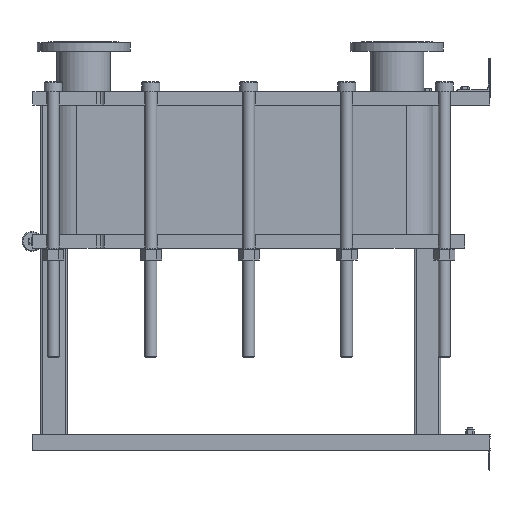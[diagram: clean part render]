
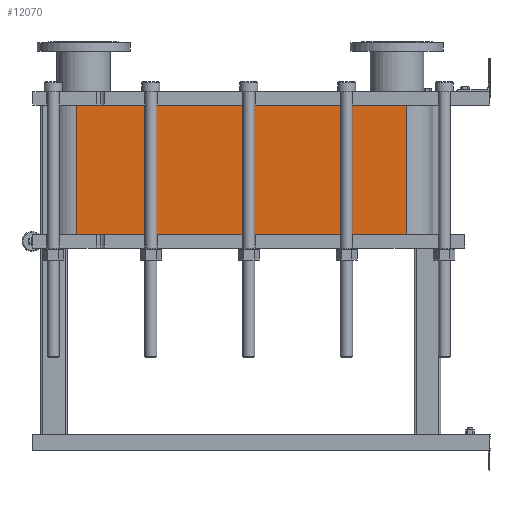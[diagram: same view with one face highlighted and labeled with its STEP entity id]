
A CAD part, left-side view. The second image highlights one B-rep face of the part: STEP entity #12070.
In plain terms, the highlighted planar face has unit normal (-1, 0, 0).
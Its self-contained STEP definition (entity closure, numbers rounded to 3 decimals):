
#1064=LINE('',#21140,#2164);
#1065=LINE('',#21144,#2165);
#1066=LINE('',#21146,#2166);
#1067=LINE('',#21147,#2167);
#2164=VECTOR('',#15790,10.);
#2165=VECTOR('',#15795,10.);
#2166=VECTOR('',#15796,10.);
#2167=VECTOR('',#15797,10.);
#3304=FACE_OUTER_BOUND('',#4091,.T.);
#4091=EDGE_LOOP('',(#9793,#9794,#9795,#9796));
#5677=VERTEX_POINT('',#21137);
#5678=VERTEX_POINT('',#21139);
#5679=VERTEX_POINT('',#21143);
#5680=VERTEX_POINT('',#21145);
#7118=EDGE_CURVE('',#5678,#5677,#1064,.T.);
#7120=EDGE_CURVE('',#5677,#5679,#1065,.T.);
#7121=EDGE_CURVE('',#5680,#5679,#1066,.T.);
#7122=EDGE_CURVE('',#5680,#5678,#1067,.T.);
#9793=ORIENTED_EDGE('',*,*,#7120,.T.);
#9794=ORIENTED_EDGE('',*,*,#7121,.F.);
#9795=ORIENTED_EDGE('',*,*,#7122,.T.);
#9796=ORIENTED_EDGE('',*,*,#7118,.T.);
#11441=PLANE('',#13191);
#12070=ADVANCED_FACE('',(#3304),#11441,.T.);
#13191=AXIS2_PLACEMENT_3D('',#21142,#15793,#15794);
#15790=DIRECTION('',(0.,0.,-1.));
#15793=DIRECTION('center_axis',(-1.,0.,0.));
#15794=DIRECTION('ref_axis',(0.,1.,0.));
#15795=DIRECTION('',(0.,-1.,0.));
#15796=DIRECTION('',(0.,0.,-1.));
#15797=DIRECTION('',(0.,1.,0.));
#21137=CARTESIAN_POINT('',(-248.152,1243.818,-389.85));
#21139=CARTESIAN_POINT('',(-248.152,1243.818,0.));
#21140=CARTESIAN_POINT('',(-248.152,1243.818,0.));
#21142=CARTESIAN_POINT('Origin',(-248.152,251.818,0.));
#21143=CARTESIAN_POINT('',(-248.152,251.818,-389.85));
#21144=CARTESIAN_POINT('',(-248.152,499.818,-389.85));
#21145=CARTESIAN_POINT('',(-248.152,251.818,0.));
#21146=CARTESIAN_POINT('',(-248.152,251.818,0.));
#21147=CARTESIAN_POINT('',(-248.152,251.818,0.));
